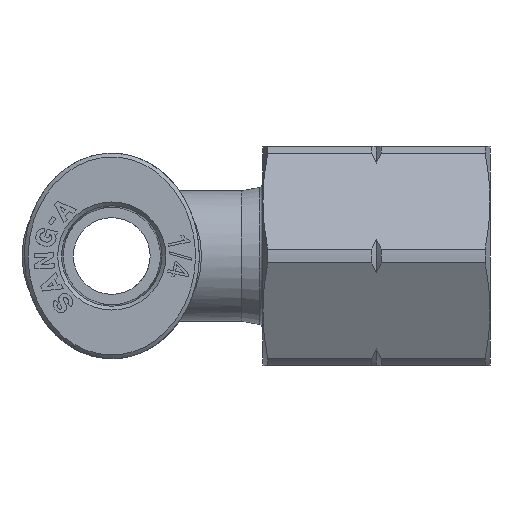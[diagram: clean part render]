
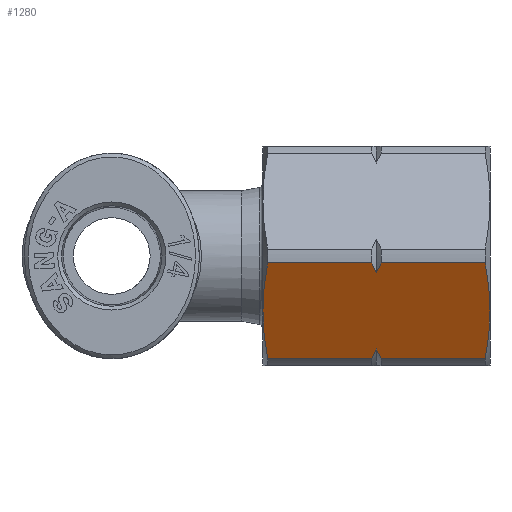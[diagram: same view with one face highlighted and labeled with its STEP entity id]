
A CAD part, front view. The second image highlights one B-rep face of the part: STEP entity #1280.
In plain terms, the highlighted planar face has unit normal (0, -0.866, -0.5).
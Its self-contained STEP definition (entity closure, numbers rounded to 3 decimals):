
#142=CARTESIAN_POINT('',(1.4,-6.187,-3.572));
#143=VERTEX_POINT('',#142);
#311=CARTESIAN_POINT('',(16.2,-6.187,-3.572));
#312=VERTEX_POINT('',#311);
#424=CARTESIAN_POINT('',(15.888,-7.987,-0.453));
#425=VERTEX_POINT('',#424);
#441=CARTESIAN_POINT('',(9.1,-7.987,-0.453));
#442=VERTEX_POINT('',#441);
#450=CARTESIAN_POINT('',(15.888,-7.987,-0.453));
#451=DIRECTION('',(-1.0,0.0,0.0));
#452=VECTOR('',#451,6.788);
#453=LINE('',#450,#452);
#454=EDGE_CURVE('',#425,#442,#453,.T.);
#464=CARTESIAN_POINT('',(15.888,-4.386,-6.69));
#465=VERTEX_POINT('',#464);
#475=CARTESIAN_POINT('',(9.1,-4.386,-6.69));
#476=VERTEX_POINT('',#475);
#477=CARTESIAN_POINT('',(9.1,-4.386,-6.69));
#478=DIRECTION('',(1.0,0.0,0.0));
#479=VECTOR('',#478,6.788);
#480=LINE('',#477,#479);
#481=EDGE_CURVE('',#476,#465,#480,.T.);
#508=CARTESIAN_POINT('',(1.712,-4.386,-6.69));
#509=VERTEX_POINT('',#508);
#525=CARTESIAN_POINT('',(8.5,-4.386,-6.69));
#526=VERTEX_POINT('',#525);
#534=CARTESIAN_POINT('',(1.712,-4.386,-6.69));
#535=DIRECTION('',(1.0,0.0,0.0));
#536=VECTOR('',#535,6.788);
#537=LINE('',#534,#536);
#538=EDGE_CURVE('',#509,#526,#537,.T.);
#548=CARTESIAN_POINT('',(1.712,-7.987,-0.453));
#549=VERTEX_POINT('',#548);
#559=CARTESIAN_POINT('',(8.5,-7.987,-0.453));
#560=VERTEX_POINT('',#559);
#561=CARTESIAN_POINT('',(8.5,-7.987,-0.453));
#562=DIRECTION('',(-1.0,0.0,0.0));
#563=VECTOR('',#562,6.788);
#564=LINE('',#561,#563);
#565=EDGE_CURVE('',#560,#549,#564,.T.);
#1079=CARTESIAN_POINT('',(8.8,-7.623,-1.083));
#1080=VERTEX_POINT('',#1079);
#1081=CARTESIAN_POINT('',(8.8,-7.623,-1.083));
#1082=CARTESIAN_POINT('',(8.667,-7.802,-0.774));
#1083=CARTESIAN_POINT('',(8.5,-7.987,-0.453));
#1091=(BOUNDED_CURVE()B_SPLINE_CURVE(2,(#1081,#1082,#1083),.UNSPECIFIED.,.F.,.U.)B_SPLINE_CURVE_WITH_KNOTS((3,3),(0.0,0.086),.UNSPECIFIED.)CURVE()GEOMETRIC_REPRESENTATION_ITEM()RATIONAL_B_SPLINE_CURVE((1.0,1.004,1.005))REPRESENTATION_ITEM(''));
#1092=EDGE_CURVE('',#1080,#560,#1091,.T.);
#1140=CARTESIAN_POINT('',(8.8,-4.75,-6.06));
#1141=VERTEX_POINT('',#1140);
#1149=CARTESIAN_POINT('',(8.5,-4.386,-6.69));
#1150=CARTESIAN_POINT('',(8.667,-4.572,-6.369));
#1151=CARTESIAN_POINT('',(8.8,-4.75,-6.06));
#1159=(BOUNDED_CURVE()B_SPLINE_CURVE(2,(#1149,#1150,#1151),.UNSPECIFIED.,.F.,.U.)B_SPLINE_CURVE_WITH_KNOTS((3,3),(0.205,0.291),.UNSPECIFIED.)CURVE()GEOMETRIC_REPRESENTATION_ITEM()RATIONAL_B_SPLINE_CURVE((1.005,1.004,1.0))REPRESENTATION_ITEM(''));
#1160=EDGE_CURVE('',#526,#1141,#1159,.T.);
#1171=CARTESIAN_POINT('',(8.8,-4.75,-6.06));
#1172=CARTESIAN_POINT('',(8.933,-4.572,-6.369));
#1173=CARTESIAN_POINT('',(9.1,-4.386,-6.69));
#1181=(BOUNDED_CURVE()B_SPLINE_CURVE(2,(#1171,#1172,#1173),.UNSPECIFIED.,.F.,.U.)B_SPLINE_CURVE_WITH_KNOTS((3,3),(0.0,0.086),.UNSPECIFIED.)CURVE()GEOMETRIC_REPRESENTATION_ITEM()RATIONAL_B_SPLINE_CURVE((1.0,1.004,1.005))REPRESENTATION_ITEM(''));
#1182=EDGE_CURVE('',#1141,#476,#1181,.T.);
#1201=CARTESIAN_POINT('',(16.2,-4.124,-7.144));
#1202=DIRECTION('',(0.,-0.866,-0.5));
#1203=DIRECTION('',(0.,-0.5,0.866));
#1204=AXIS2_PLACEMENT_3D('',#1201,#1202,#1203);
#1205=PLANE('',#1204);
#1206=ORIENTED_EDGE('',*,*,#565,.T.);
#1207=CARTESIAN_POINT('',(1.712,-7.987,-0.453));
#1208=CARTESIAN_POINT('',(1.4,-7.036,-2.101));
#1209=CARTESIAN_POINT('',(1.4,-6.187,-3.572));
#1217=(BOUNDED_CURVE()B_SPLINE_CURVE(2,(#1207,#1208,#1209),.UNSPECIFIED.,.F.,.U.)B_SPLINE_CURVE_WITH_KNOTS((3,3),(0.172,0.552),.UNSPECIFIED.)CURVE()GEOMETRIC_REPRESENTATION_ITEM()RATIONAL_B_SPLINE_CURVE((1.027,1.043,1.0))REPRESENTATION_ITEM(''));
#1218=EDGE_CURVE('',#549,#143,#1217,.T.);
#1219=ORIENTED_EDGE('',*,*,#1218,.T.);
#1220=CARTESIAN_POINT('',(1.4,-6.187,-3.572));
#1221=CARTESIAN_POINT('',(1.4,-5.337,-5.043));
#1222=CARTESIAN_POINT('',(1.712,-4.386,-6.69));
#1230=(BOUNDED_CURVE()B_SPLINE_CURVE(2,(#1220,#1221,#1222),.UNSPECIFIED.,.F.,.U.)B_SPLINE_CURVE_WITH_KNOTS((3,3),(0.552,0.933),.UNSPECIFIED.)CURVE()GEOMETRIC_REPRESENTATION_ITEM()RATIONAL_B_SPLINE_CURVE((1.0,1.043,1.027))REPRESENTATION_ITEM(''));
#1231=EDGE_CURVE('',#143,#509,#1230,.T.);
#1232=ORIENTED_EDGE('',*,*,#1231,.T.);
#1233=ORIENTED_EDGE('',*,*,#538,.T.);
#1234=ORIENTED_EDGE('',*,*,#1160,.T.);
#1235=ORIENTED_EDGE('',*,*,#1182,.T.);
#1236=ORIENTED_EDGE('',*,*,#481,.T.);
#1237=CARTESIAN_POINT('',(15.888,-4.386,-6.69));
#1238=CARTESIAN_POINT('',(16.2,-5.337,-5.043));
#1239=CARTESIAN_POINT('',(16.2,-6.187,-3.572));
#1247=(BOUNDED_CURVE()B_SPLINE_CURVE(2,(#1237,#1238,#1239),.UNSPECIFIED.,.F.,.U.)B_SPLINE_CURVE_WITH_KNOTS((3,3),(0.172,0.552),.UNSPECIFIED.)CURVE()GEOMETRIC_REPRESENTATION_ITEM()RATIONAL_B_SPLINE_CURVE((1.027,1.043,1.0))REPRESENTATION_ITEM(''));
#1248=EDGE_CURVE('',#465,#312,#1247,.T.);
#1249=ORIENTED_EDGE('',*,*,#1248,.T.);
#1250=CARTESIAN_POINT('',(16.2,-6.187,-3.572));
#1251=CARTESIAN_POINT('',(16.2,-7.036,-2.101));
#1252=CARTESIAN_POINT('',(15.888,-7.987,-0.453));
#1260=(BOUNDED_CURVE()B_SPLINE_CURVE(2,(#1250,#1251,#1252),.UNSPECIFIED.,.F.,.U.)B_SPLINE_CURVE_WITH_KNOTS((3,3),(0.552,0.933),.UNSPECIFIED.)CURVE()GEOMETRIC_REPRESENTATION_ITEM()RATIONAL_B_SPLINE_CURVE((1.0,1.043,1.027))REPRESENTATION_ITEM(''));
#1261=EDGE_CURVE('',#312,#425,#1260,.T.);
#1262=ORIENTED_EDGE('',*,*,#1261,.T.);
#1263=ORIENTED_EDGE('',*,*,#454,.T.);
#1264=CARTESIAN_POINT('',(9.1,-7.987,-0.453));
#1265=CARTESIAN_POINT('',(8.933,-7.802,-0.774));
#1266=CARTESIAN_POINT('',(8.8,-7.623,-1.083));
#1274=(BOUNDED_CURVE()B_SPLINE_CURVE(2,(#1264,#1265,#1266),.UNSPECIFIED.,.F.,.U.)B_SPLINE_CURVE_WITH_KNOTS((3,3),(0.205,0.291),.UNSPECIFIED.)CURVE()GEOMETRIC_REPRESENTATION_ITEM()RATIONAL_B_SPLINE_CURVE((1.005,1.004,1.0))REPRESENTATION_ITEM(''));
#1275=EDGE_CURVE('',#442,#1080,#1274,.T.);
#1276=ORIENTED_EDGE('',*,*,#1275,.T.);
#1277=ORIENTED_EDGE('',*,*,#1092,.T.);
#1278=EDGE_LOOP('',(#1206,#1219,#1232,#1233,#1234,#1235,#1236,#1249,#1262,#1263,#1276,#1277));
#1279=FACE_OUTER_BOUND('',#1278,.T.);
#1280=ADVANCED_FACE('',(#1279),#1205,.T.);
